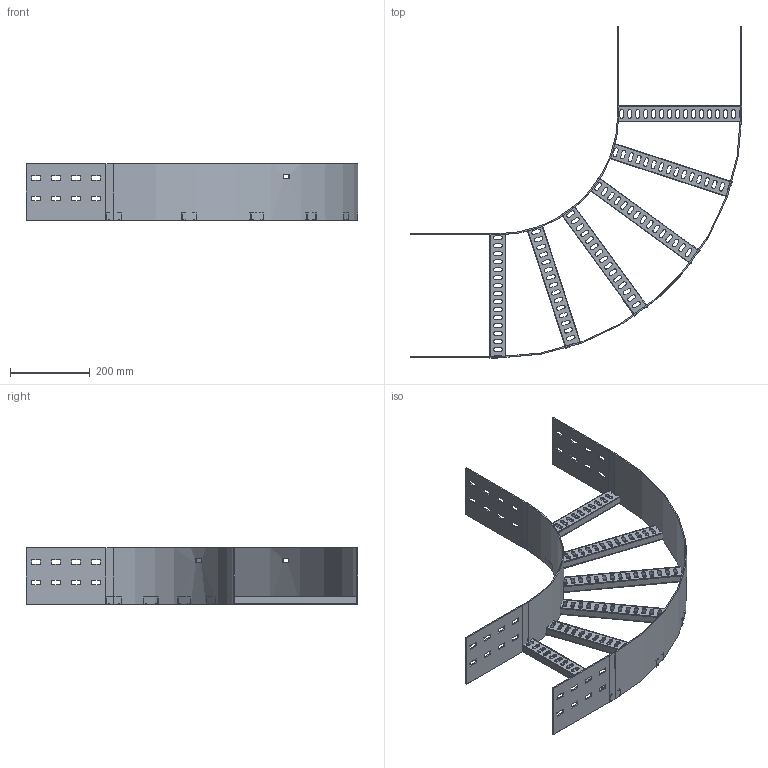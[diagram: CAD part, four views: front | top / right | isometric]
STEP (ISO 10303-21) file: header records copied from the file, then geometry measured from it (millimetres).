
FILE_DESCRIPTION(/* description */ ('','CAx-IF Rec.Pracs.---Representation and Presentation of Product Manufacturing Information (PMI)---4.0---2014-10-13'),/* implementation_level */ '2;1');
FILE_NAME(/* name */ 'Eurostrut_EFB150-90-300-300_Bend 90 for Cable Ladder ECL.step',/* time_stamp */ '2026-09-07T12:14:31+02:00',/* author */ (''),/* organization */ (''),/* preprocessor_version */ 'ST-DEVELOPER v20.1',/* originating_system */ 'Autodesk Revit 2027 27.2.0.39',/* authorisation */ '');
FILE_SCHEMA (('AP242_MANAGED_MODEL_BASED_3D_ENGINEERING_MIM_LF { 1 0 10303 442 2 1 4 }'));
Length unit declared in the file: millimetre
Products named in the file (6): TopLevelAssembly; Sweep; Extrusion; Extrusion_1; Eurostrut_Cable Ladder_Rung_Horizontal Bend_With slots; Eurostrut_Cable Ladder_Accessory End SWEEP
Assembly tree (8 placements, depth 2):
  TopLevelAssembly
    Sweep
    Extrusion
    Extrusion_1
    Eurostrut_Cable Ladder_Rung_Horizontal Bend_With slots
    Eurostrut_Cable Ladder_Accessory End SWEEP  x4
Bounding box: 831 x 831 x 142 mm (x, y, z)
Volume: 1188310.8 mm3; surface area: 988288.5 mm2
Topology: 16 solids, 16 shells, 688 faces, 1968 edges, 1312 vertices
Faces by surface type: plane 468, bspline 192, cylinder 28
Entity records: 24612 total; most frequent: CARTESIAN_POINT 9184, ORIENTED_EDGE 3288, DIRECTION 2884, EDGE_CURVE 1644, LINE 1196, VECTOR 1196, VERTEX_POINT 1096, AXIS2_PLACEMENT_3D 844
